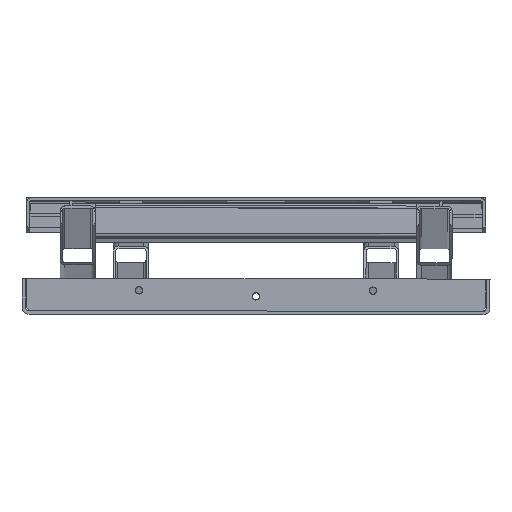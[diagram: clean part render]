
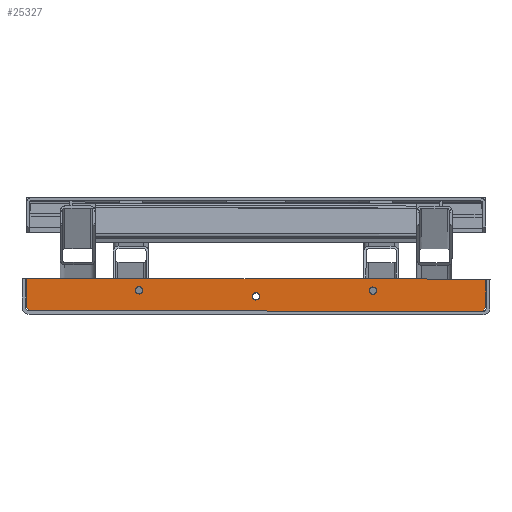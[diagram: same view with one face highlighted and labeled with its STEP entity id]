
A CAD part, left-side view. The second image highlights one B-rep face of the part: STEP entity #25327.
In plain terms, the highlighted planar face has unit normal (-1, 0, 0) as drawn and (0, 0, -1) by its records, which use the part's own axes.
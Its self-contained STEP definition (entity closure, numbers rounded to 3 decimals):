
#895=FACE_BOUND('',#4511,.T.);
#896=FACE_BOUND('',#4512,.T.);
#897=FACE_BOUND('',#4513,.T.);
#1548=PLANE('',#27652);
#2797=FACE_OUTER_BOUND('',#4510,.T.);
#4510=EDGE_LOOP('',(#23367,#23368,#23369,#23370,#23371,#23372,#23373,#23374,
#23375,#23376,#23377,#23378));
#4511=EDGE_LOOP('',(#23379));
#4512=EDGE_LOOP('',(#23380));
#4513=EDGE_LOOP('',(#23381));
#5588=CIRCLE('',#27651,1.);
#5589=CIRCLE('',#27653,1.);
#5590=CIRCLE('',#27654,1.);
#5591=CIRCLE('',#27655,1.);
#5592=CIRCLE('',#27656,1.);
#5593=CIRCLE('',#27657,1.);
#5594=CIRCLE('',#27658,6.25);
#5595=CIRCLE('',#27659,6.25);
#5596=CIRCLE('',#27660,6.25);
#7913=LINE('',#44254,#10259);
#7914=LINE('',#44258,#10260);
#7915=LINE('',#44262,#10261);
#7916=LINE('',#44266,#10262);
#7917=LINE('',#44270,#10263);
#7918=LINE('',#44273,#10264);
#10259=VECTOR('',#34586,47.586);
#10260=VECTOR('',#34589,7.657);
#10261=VECTOR('',#34592,773.172);
#10262=VECTOR('',#34595,7.657);
#10263=VECTOR('',#34598,47.586);
#10264=VECTOR('',#34601,784.);
#12695=VERTEX_POINT('',#44247);
#12696=VERTEX_POINT('',#44249);
#12697=VERTEX_POINT('',#44253);
#12698=VERTEX_POINT('',#44255);
#12699=VERTEX_POINT('',#44257);
#12700=VERTEX_POINT('',#44259);
#12701=VERTEX_POINT('',#44261);
#12702=VERTEX_POINT('',#44263);
#12703=VERTEX_POINT('',#44265);
#12704=VERTEX_POINT('',#44267);
#12705=VERTEX_POINT('',#44269);
#12706=VERTEX_POINT('',#44271);
#12707=VERTEX_POINT('',#44274);
#12708=VERTEX_POINT('',#44276);
#12709=VERTEX_POINT('',#44278);
#16263=EDGE_CURVE('',#12695,#12696,#5588,.T.);
#16265=EDGE_CURVE('',#12695,#12697,#7913,.T.);
#16266=EDGE_CURVE('',#12698,#12697,#5589,.T.);
#16267=EDGE_CURVE('',#12699,#12698,#7914,.T.);
#16268=EDGE_CURVE('',#12700,#12699,#5590,.T.);
#16269=EDGE_CURVE('',#12700,#12701,#7915,.T.);
#16270=EDGE_CURVE('',#12702,#12701,#5591,.T.);
#16271=EDGE_CURVE('',#12702,#12703,#7916,.T.);
#16272=EDGE_CURVE('',#12704,#12703,#5592,.T.);
#16273=EDGE_CURVE('',#12705,#12704,#7917,.T.);
#16274=EDGE_CURVE('',#12706,#12705,#5593,.T.);
#16275=EDGE_CURVE('',#12706,#12696,#7918,.T.);
#16276=EDGE_CURVE('',#12707,#12707,#5594,.T.);
#16277=EDGE_CURVE('',#12708,#12708,#5595,.T.);
#16278=EDGE_CURVE('',#12709,#12709,#5596,.T.);
#23367=ORIENTED_EDGE('',*,*,#16263,.F.);
#23368=ORIENTED_EDGE('',*,*,#16265,.T.);
#23369=ORIENTED_EDGE('',*,*,#16266,.F.);
#23370=ORIENTED_EDGE('',*,*,#16267,.F.);
#23371=ORIENTED_EDGE('',*,*,#16268,.F.);
#23372=ORIENTED_EDGE('',*,*,#16269,.T.);
#23373=ORIENTED_EDGE('',*,*,#16270,.F.);
#23374=ORIENTED_EDGE('',*,*,#16271,.T.);
#23375=ORIENTED_EDGE('',*,*,#16272,.F.);
#23376=ORIENTED_EDGE('',*,*,#16273,.F.);
#23377=ORIENTED_EDGE('',*,*,#16274,.F.);
#23378=ORIENTED_EDGE('',*,*,#16275,.T.);
#23379=ORIENTED_EDGE('',*,*,#16276,.T.);
#23380=ORIENTED_EDGE('',*,*,#16277,.F.);
#23381=ORIENTED_EDGE('',*,*,#16278,.F.);
#25327=ADVANCED_FACE('',(#2797,#895,#896,#897),#1548,.F.);
#27651=AXIS2_PLACEMENT_3D('',#44250,#34581,#34582);
#27652=AXIS2_PLACEMENT_3D('',#44252,#34584,#34585);
#27653=AXIS2_PLACEMENT_3D('',#44256,#34587,#34588);
#27654=AXIS2_PLACEMENT_3D('',#44260,#34590,#34591);
#27655=AXIS2_PLACEMENT_3D('',#44264,#34593,#34594);
#27656=AXIS2_PLACEMENT_3D('',#44268,#34596,#34597);
#27657=AXIS2_PLACEMENT_3D('',#44272,#34599,#34600);
#27658=AXIS2_PLACEMENT_3D('',#44275,#34602,#34603);
#27659=AXIS2_PLACEMENT_3D('',#44277,#34604,#34605);
#27660=AXIS2_PLACEMENT_3D('',#44279,#34606,#34607);
#34581=DIRECTION('center_axis',(0.,0.,1.));
#34582=DIRECTION('ref_axis',(0.707,0.707,0.));
#34584=DIRECTION('center_axis',(0.,0.,1.));
#34585=DIRECTION('ref_axis',(1.,0.,0.));
#34586=DIRECTION('',(0.,-1.,0.));
#34587=DIRECTION('center_axis',(0.,0.,1.));
#34588=DIRECTION('ref_axis',(0.924,-0.383,0.));
#34589=DIRECTION('',(0.707,0.707,0.));
#34590=DIRECTION('center_axis',(0.,0.,1.));
#34591=DIRECTION('ref_axis',(0.383,-0.924,0.));
#34592=DIRECTION('',(-1.,0.,0.));
#34593=DIRECTION('center_axis',(0.,0.,1.));
#34594=DIRECTION('ref_axis',(-0.383,-0.924,0.));
#34595=DIRECTION('',(-0.707,0.707,0.));
#34596=DIRECTION('center_axis',(0.,0.,1.));
#34597=DIRECTION('ref_axis',(-0.924,-0.383,0.));
#34598=DIRECTION('',(0.,-1.,0.));
#34599=DIRECTION('center_axis',(0.,0.,1.));
#34600=DIRECTION('ref_axis',(-0.707,0.707,0.));
#34601=DIRECTION('',(1.,0.,0.));
#34602=DIRECTION('center_axis',(0.,0.,1.));
#34603=DIRECTION('ref_axis',(1.,0.,0.));
#34604=DIRECTION('center_axis',(0.,0.,-1.));
#34605=DIRECTION('ref_axis',(-1.,0.,0.));
#34606=DIRECTION('center_axis',(0.,0.,-1.));
#34607=DIRECTION('ref_axis',(-1.,0.,0.));
#44247=CARTESIAN_POINT('',(393.,26.5,0.));
#44249=CARTESIAN_POINT('',(392.,27.5,0.));
#44250=CARTESIAN_POINT('Origin',(392.,26.5,0.));
#44252=CARTESIAN_POINT('Origin',(196.5,0.,0.));
#44253=CARTESIAN_POINT('',(393.,-21.086,0.));
#44254=CARTESIAN_POINT('',(393.,27.5,0.));
#44255=CARTESIAN_POINT('',(392.707,-21.793,0.));
#44256=CARTESIAN_POINT('Origin',(392.,-21.086,0.));
#44257=CARTESIAN_POINT('',(387.293,-27.207,0.));
#44258=CARTESIAN_POINT('',(347.75,-66.75,0.));
#44259=CARTESIAN_POINT('',(386.586,-27.5,0.));
#44260=CARTESIAN_POINT('Origin',(386.586,-26.5,0.));
#44261=CARTESIAN_POINT('',(-386.586,-27.5,0.));
#44262=CARTESIAN_POINT('',(393.,-27.5,0.));
#44263=CARTESIAN_POINT('',(-387.293,-27.207,0.));
#44264=CARTESIAN_POINT('Origin',(-386.586,-26.5,0.));
#44265=CARTESIAN_POINT('',(-392.707,-21.793,0.));
#44266=CARTESIAN_POINT('',(-347.75,-66.75,0.));
#44267=CARTESIAN_POINT('',(-393.,-21.086,0.));
#44268=CARTESIAN_POINT('Origin',(-392.,-21.086,0.));
#44269=CARTESIAN_POINT('',(-393.,26.5,0.));
#44270=CARTESIAN_POINT('',(-393.,27.5,0.));
#44271=CARTESIAN_POINT('',(-392.,27.5,0.));
#44272=CARTESIAN_POINT('Origin',(-392.,26.5,0.));
#44273=CARTESIAN_POINT('',(0.,27.5,0.));
#44274=CARTESIAN_POINT('',(206.25,7.5,0.));
#44275=CARTESIAN_POINT('Origin',(200.,7.5,0.));
#44276=CARTESIAN_POINT('',(-206.25,7.5,0.));
#44277=CARTESIAN_POINT('Origin',(-200.,7.5,0.));
#44278=CARTESIAN_POINT('',(0.,-8.75,0.));
#44279=CARTESIAN_POINT('Origin',(0.,-2.5,
0.));
